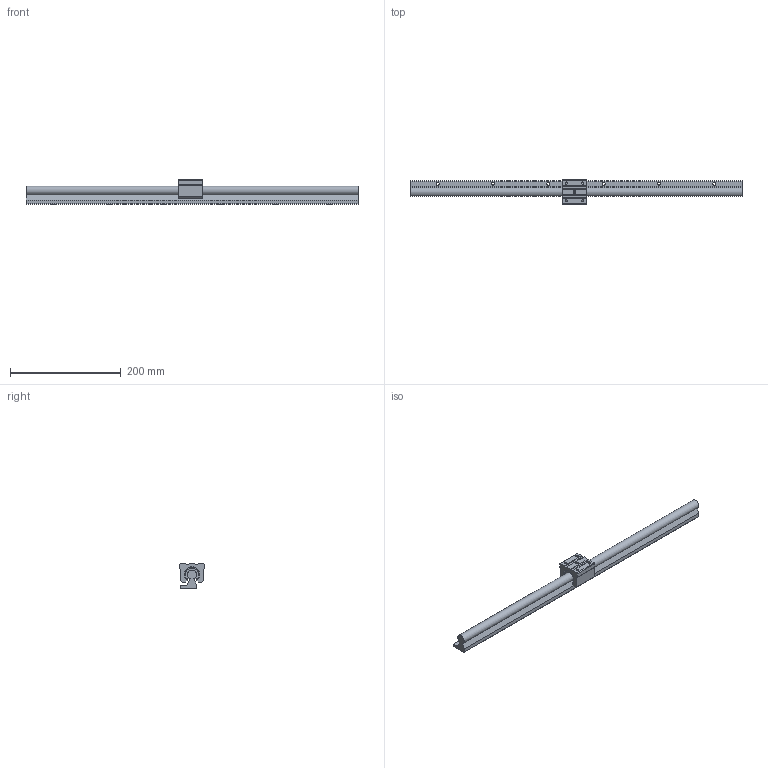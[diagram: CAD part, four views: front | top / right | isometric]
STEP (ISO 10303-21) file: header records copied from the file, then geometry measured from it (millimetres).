
FILE_DESCRIPTION((''),'2;1');
FILE_NAME('D:\製品 (図面)\カタログ用3D\リニアガイド関連\STEP形式\GHA(W)\GHA16.stp','2010-06-08T09:13:23',('Tsuchiya'),(''),'Autodesk Inventor 10','Autodesk Inventor 10','');
FILE_SCHEMA(('AUTOMOTIVE_DESIGN { 1 0 10303 214 1 1 1 1 }'));
Length unit declared in the file: millimetre
Products named in the file (3): GHA16; GHA161; GHA162
Assembly tree (2 placements, depth 2):
  GHA16
    GHA161
    GHA162
Bounding box: 600 x 45 x 45 mm (x, y, z)
Volume: 344213.7 mm3; surface area: 86753.9 mm2
Topology: 2 solids, 2 shells, 159 faces, 419 edges, 273 vertices
Faces by surface type: plane 97, cylinder 37, bspline 10, torus 8, cone 7
Full cylindrical faces by diameter (mm): 5.5 x6, 8.5 x6, 8.9 x6
Entity records: 4689 total; most frequent: CARTESIAN_POINT 1044, ORIENTED_EDGE 716, DIRECTION 712, EDGE_CURVE 358, VERTEX_POINT 252, AXIS2_PLACEMENT_3D 246, EDGE_LOOP 224, VECTOR 220
